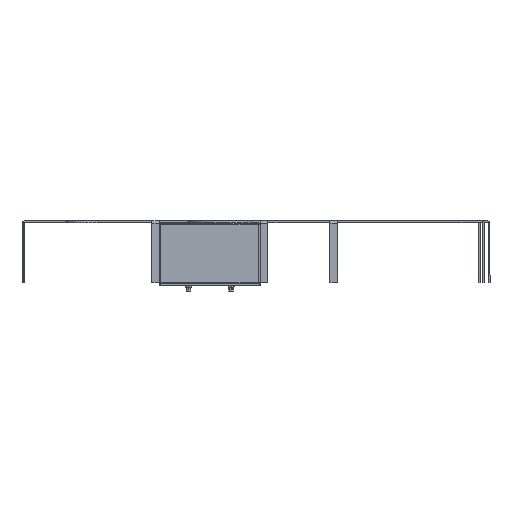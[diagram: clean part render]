
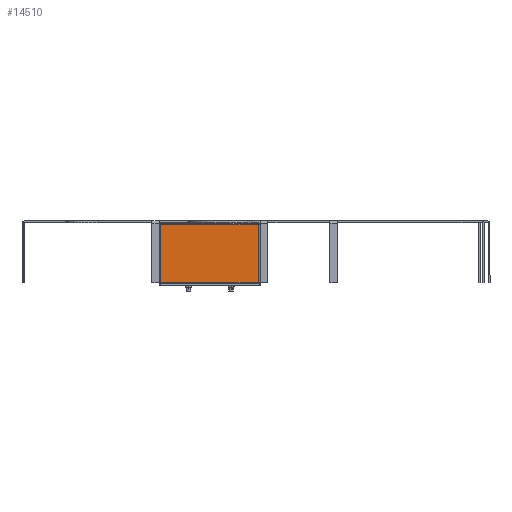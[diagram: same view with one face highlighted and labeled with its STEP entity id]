
A CAD part, left-side view. The second image highlights one B-rep face of the part: STEP entity #14510.
In plain terms, the highlighted planar face has unit normal (-1, 0, 0).
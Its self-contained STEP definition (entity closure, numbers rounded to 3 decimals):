
#124 = VECTOR ( 'NONE', #10208, 1000. ) ;
#701 = EDGE_CURVE ( 'NONE', #14740, #7853, #3053, .T. ) ;
#783 = ORIENTED_EDGE ( 'NONE', *, *, #12190, .T. ) ;
#1264 = LINE ( 'NONE', #12848, #1446 ) ;
#1446 = VECTOR ( 'NONE', #9539, 1000. ) ;
#1901 = DIRECTION ( 'NONE',  ( 1., 0., 0. ) ) ;
#1907 = DIRECTION ( 'NONE',  ( 0., 0., -1. ) ) ;
#2276 = CARTESIAN_POINT ( 'NONE',  ( -27.5, 2.5, -65. ) ) ;
#2451 = AXIS2_PLACEMENT_3D ( 'NONE', #8770, #1901, #7332 ) ;
#2590 = VERTEX_POINT ( 'NONE', #8245 ) ;
#2663 = VECTOR ( 'NONE', #12087, 1000. ) ;
#2825 = LINE ( 'NONE', #7421, #2663 ) ;
#2974 = CARTESIAN_POINT ( 'NONE',  ( -27.5, 2.5, 715. ) ) ;
#3053 = LINE ( 'NONE', #13517, #124 ) ;
#3766 = ORIENTED_EDGE ( 'NONE', *, *, #701, .F. ) ;
#4683 = CARTESIAN_POINT ( 'NONE',  ( -27.5, 78., -65. ) ) ;
#6222 = VECTOR ( 'NONE', #1907, 1000. ) ;
#6892 = ORIENTED_EDGE ( 'NONE', *, *, #8888, .F. ) ;
#7332 = DIRECTION ( 'NONE',  ( 0., 0., -1. ) ) ;
#7421 = CARTESIAN_POINT ( 'NONE',  ( -27.5, 2.5, 65. ) ) ;
#7853 = VERTEX_POINT ( 'NONE', #4683 ) ;
#8245 = CARTESIAN_POINT ( 'NONE',  ( -27.5, 78., 65. ) ) ;
#8740 = ORIENTED_EDGE ( 'NONE', *, *, #11665, .T. ) ;
#8770 = CARTESIAN_POINT ( 'NONE',  ( -27.5, 78., 715. ) ) ;
#8888 = EDGE_CURVE ( 'NONE', #11431, #14740, #9816, .T. ) ;
#9539 = DIRECTION ( 'NONE',  ( 0., 0., -1. ) ) ;
#9762 = EDGE_LOOP ( 'NONE', ( #6892, #783, #8740, #3766 ) ) ;
#9816 = LINE ( 'NONE', #2974, #6222 ) ;
#10208 = DIRECTION ( 'NONE',  ( 0., 1., 0. ) ) ;
#11431 = VERTEX_POINT ( 'NONE', #11433 ) ;
#11433 = CARTESIAN_POINT ( 'NONE',  ( -27.5, 2.5, 65. ) ) ;
#11665 = EDGE_CURVE ( 'NONE', #2590, #7853, #1264, .T. ) ;
#12087 = DIRECTION ( 'NONE',  ( 0., 1., 0. ) ) ;
#12190 = EDGE_CURVE ( 'NONE', #11431, #2590, #2825, .T. ) ;
#12848 = CARTESIAN_POINT ( 'NONE',  ( -27.5, 78., 715. ) ) ;
#13044 = FACE_OUTER_BOUND ( 'NONE', #9762, .T. ) ;
#13342 = PLANE ( 'NONE',  #2451 ) ;
#13517 = CARTESIAN_POINT ( 'NONE',  ( -27.5, 2.5, -65. ) ) ;
#14510 = ADVANCED_FACE ( 'NONE', ( #13044 ), #13342, .F. ) ;
#14740 = VERTEX_POINT ( 'NONE', #2276 ) ;
